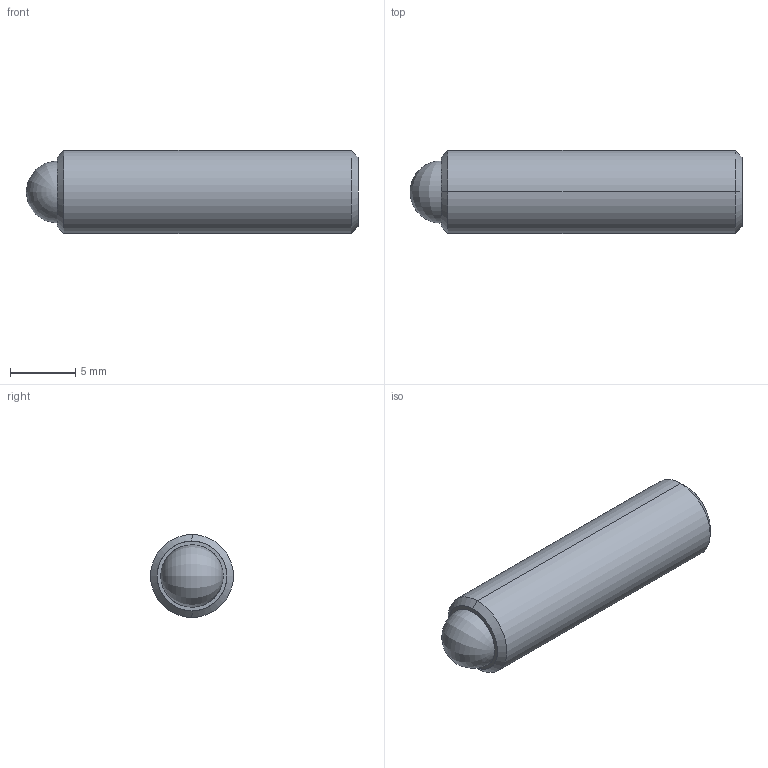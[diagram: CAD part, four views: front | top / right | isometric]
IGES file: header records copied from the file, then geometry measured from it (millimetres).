
Start section: SolidWorks IGES file using analytic representation for surfaces
Global section: file name: C:\Users\workpc\Desktop\KMA Solidworks\TS250-80 Series\TS250-80 High Vacuum\TS250-80 High Vacuum 3D Models\TS250-80-1000-AA-HV.IGS; native system: SolidWorks 2013; preprocessor: SolidWorks 2013; author: workpc; date: 130510.103827; units: inch
Bounding box: 25.4 x 6.35 x 6.35 mm (x, y, z)
Surface area: 632.8 mm2 (no closed solid volume)
Topology: 0 solids, 0 shells, 24 faces, 240 edges, 236 vertices
Faces by surface type: revolution 14, bspline 10
